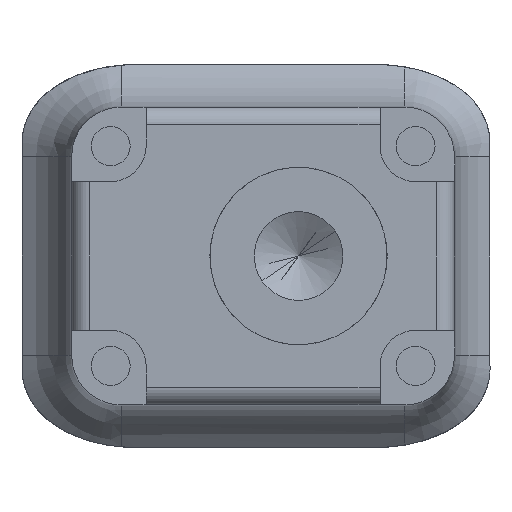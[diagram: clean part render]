
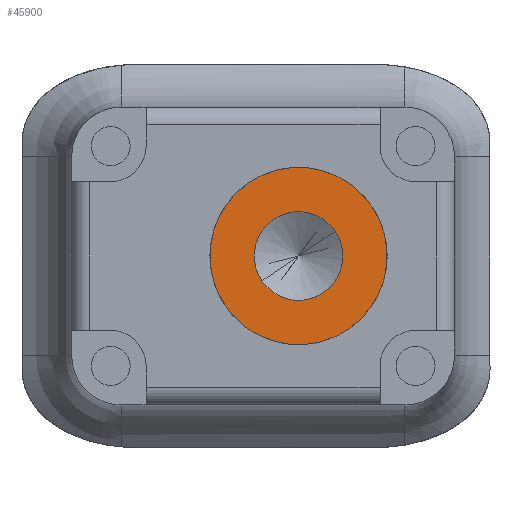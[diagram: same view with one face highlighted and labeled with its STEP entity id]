
A CAD part, front view. The second image highlights one B-rep face of the part: STEP entity #45900.
In plain terms, the highlighted planar face has unit normal (0, -1, 0) as drawn and (0, 0, -1) by its records, which use the part's own axes.
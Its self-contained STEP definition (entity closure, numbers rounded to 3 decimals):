
#1230 = DIRECTION ( 'NONE',  ( -1., 0., 0. ) ) ;
#2038 = DIRECTION ( 'NONE',  ( 0., 0., 1. ) ) ;
#4740 = VERTEX_POINT ( 'NONE', #28249 ) ;
#5437 = CARTESIAN_POINT ( 'NONE',  ( 2.5, 0., 0. ) ) ;
#9185 = CARTESIAN_POINT ( 'NONE',  ( -1.25, 0., 0. ) ) ;
#9707 = CIRCLE ( 'NONE', #32410, 2.5 ) ;
#11583 = CARTESIAN_POINT ( 'NONE',  ( 0., 0., 0. ) ) ;
#12824 = DIRECTION ( 'NONE',  ( 0., 0., 1. ) ) ;
#13187 = EDGE_LOOP ( 'NONE', ( #38833, #21920 ) ) ;
#15089 = FACE_BOUND ( 'NONE', #23524, .T. ) ;
#15658 = FACE_OUTER_BOUND ( 'NONE', #13187, .T. ) ;
#17485 = DIRECTION ( 'NONE',  ( 1., 0., 0. ) ) ;
#20112 = CARTESIAN_POINT ( 'NONE',  ( 0., 0., 0. ) ) ;
#21758 = ORIENTED_EDGE ( 'NONE', *, *, #55124, .F. ) ;
#21920 = ORIENTED_EDGE ( 'NONE', *, *, #42485, .F. ) ;
#21948 = CIRCLE ( 'NONE', #38022, 2.5 ) ;
#22428 = CARTESIAN_POINT ( 'NONE',  ( 0., 0., 0. ) ) ;
#23524 = EDGE_LOOP ( 'NONE', ( #21758, #33785 ) ) ;
#23981 = PLANE ( 'NONE',  #26903 ) ;
#25705 = AXIS2_PLACEMENT_3D ( 'NONE', #22428, #32724, #31623 ) ;
#26903 = AXIS2_PLACEMENT_3D ( 'NONE', #20112, #2038, #37605 ) ;
#28249 = CARTESIAN_POINT ( 'NONE',  ( 1.25, 0., 0. ) ) ;
#29065 = DIRECTION ( 'NONE',  ( 0., 0., -1. ) ) ;
#31623 = DIRECTION ( 'NONE',  ( -1., 0., 0. ) ) ;
#32371 = CIRCLE ( 'NONE', #25705, 1.25 ) ;
#32410 = AXIS2_PLACEMENT_3D ( 'NONE', #36143, #54217, #17485 ) ;
#32724 = DIRECTION ( 'NONE',  ( 0., 0., -1. ) ) ;
#33785 = ORIENTED_EDGE ( 'NONE', *, *, #41780, .F. ) ;
#35627 = DIRECTION ( 'NONE',  ( 1., 0., 0. ) ) ;
#36143 = CARTESIAN_POINT ( 'NONE',  ( 0., 0., 0. ) ) ;
#37605 = DIRECTION ( 'NONE',  ( 1., 0., 0. ) ) ;
#38022 = AXIS2_PLACEMENT_3D ( 'NONE', #57245, #12824, #35627 ) ;
#38483 = VERTEX_POINT ( 'NONE', #9185 ) ;
#38833 = ORIENTED_EDGE ( 'NONE', *, *, #42092, .F. ) ;
#40910 = AXIS2_PLACEMENT_3D ( 'NONE', #11583, #29065, #1230 ) ;
#41780 = EDGE_CURVE ( 'NONE', #4740, #38483, #32371, .T. ) ;
#42092 = EDGE_CURVE ( 'NONE', #52004, #51399, #21948, .T. ) ;
#42485 = EDGE_CURVE ( 'NONE', #51399, #52004, #9707, .T. ) ;
#45609 = CARTESIAN_POINT ( 'NONE',  ( -2.5, 0., 0. ) ) ;
#45617 = CIRCLE ( 'NONE', #40910, 1.25 ) ;
#45900 = ADVANCED_FACE ( 'NONE', ( #15089, #15658 ), #23981, .F. ) ;
#51399 = VERTEX_POINT ( 'NONE', #5437 ) ;
#52004 = VERTEX_POINT ( 'NONE', #45609 ) ;
#54217 = DIRECTION ( 'NONE',  ( 0., 0., 1. ) ) ;
#55124 = EDGE_CURVE ( 'NONE', #38483, #4740, #45617, .T. ) ;
#57245 = CARTESIAN_POINT ( 'NONE',  ( 0., 0., 0. ) ) ;
